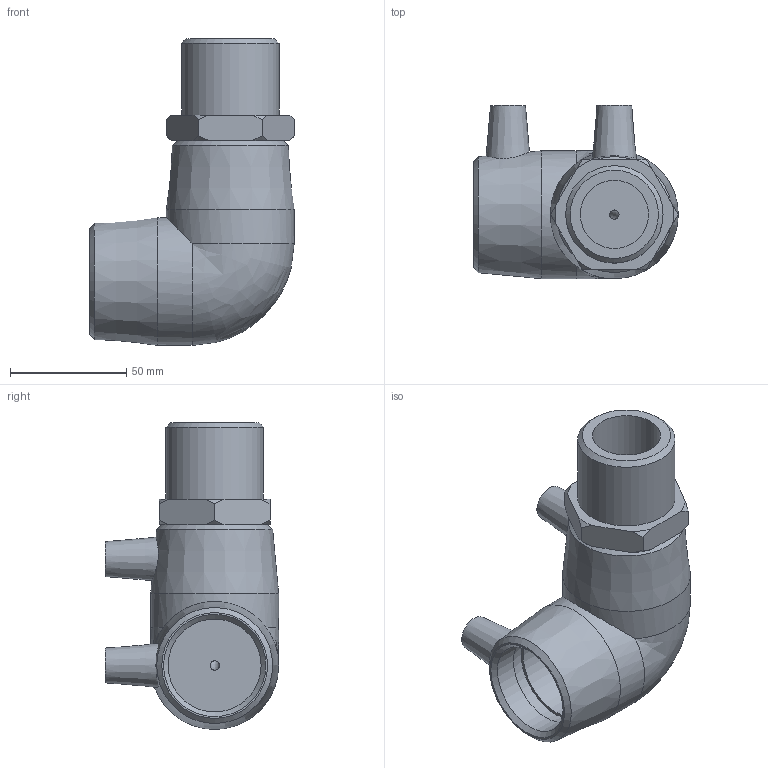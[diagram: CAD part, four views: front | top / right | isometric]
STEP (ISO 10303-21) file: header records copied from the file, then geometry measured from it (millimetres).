
FILE_DESCRIPTION(/* description */ ('PE Male Transition Elbow 90° 40x1 1_4'),/* implementation_level */ '2;1');
FILE_NAME(/* name */ 'C:\Dropbox\KIMPROJECTS-Inventor\99-16-3568-Processing\ElectroFusion Fittings\21.04\497504\497504040013.ipt.stp',/* time_stamp */ '2019-04-21T15:13:01+03:00',/* author */ ('KIM'),/* organization */ (''),/* preprocessor_version */ 'ST-DEVELOPER v15.6',/* originating_system */ 'Autodesk Inventor 2015',/* authorisation */ '');
FILE_SCHEMA (('AUTOMOTIVE_DESIGN { 1 0 10303 214 3 1 1 }'));
Length unit declared in the file: millimetre
Products named in the file (1): 497504040013
Bounding box: 88 x 74.5 x 132 mm (x, y, z)
Volume: 243535.2 mm3; surface area: 55764 mm2
Topology: 2 solids, 2 shells, 60 faces, 134 edges, 86 vertices
Faces by surface type: plane 22, cone 22, cylinder 14, bspline 1, torus 1
Full cylindrical faces by diameter (mm): 4 x3, 10 x2, 29.337 x1, 30 x1, 40 x4, 41.91 x1, 55 x2
Entity records: 1529 total; most frequent: CARTESIAN_POINT 368, DIRECTION 242, ORIENTED_EDGE 192, AXIS2_PLACEMENT_3D 112, EDGE_LOOP 101, EDGE_CURVE 96, VERTEX_POINT 77, FACE_OUTER_BOUND 60
